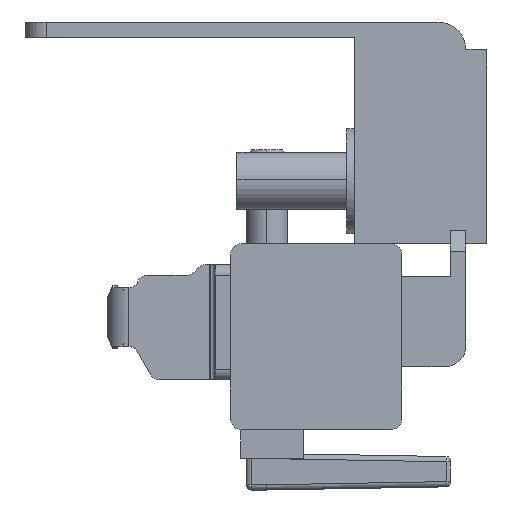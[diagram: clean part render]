
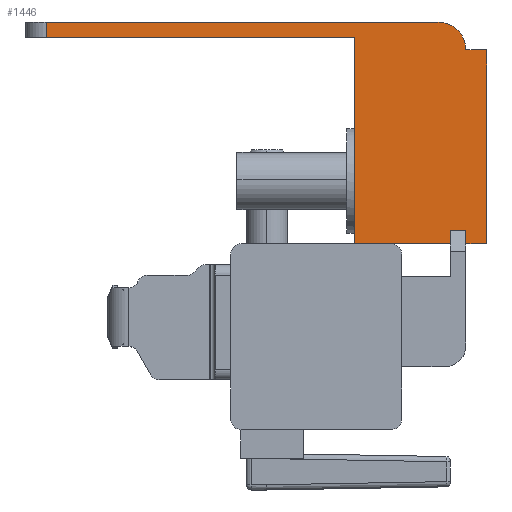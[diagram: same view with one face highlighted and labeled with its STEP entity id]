
A CAD part, left-side view. The second image highlights one B-rep face of the part: STEP entity #1446.
In plain terms, the highlighted planar face has unit normal (-1, 0, 0).
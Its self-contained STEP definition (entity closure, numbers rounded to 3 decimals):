
#17 = CARTESIAN_POINT ( 'NONE',  ( -291., -26.863, -0.361 ) ) ;
#47 = CARTESIAN_POINT ( 'NONE',  ( -291., -17.713, -1.651 ) ) ;
#92 = EDGE_CURVE ( 'NONE', #3028, #2423, #4048, .T. ) ;
#107 = AXIS2_PLACEMENT_3D ( 'NONE', #1886, #2613, #1338 ) ;
#168 = CARTESIAN_POINT ( 'NONE',  ( -291., -28.333, 16.879 ) ) ;
#183 = LINE ( 'NONE', #307, #2459 ) ;
#220 = CARTESIAN_POINT ( 'NONE',  ( -291., -28.333, -0.361 ) ) ;
#246 = EDGE_CURVE ( 'NONE', #2527, #616, #2412, .T. ) ;
#307 = CARTESIAN_POINT ( 'NONE',  ( -291., 11.767, 17.779 ) ) ;
#346 = DIRECTION ( 'NONE',  ( 0., -1., 0. ) ) ;
#353 = CARTESIAN_POINT ( 'NONE',  ( -291., 11.767, 19.549 ) ) ;
#366 = DIRECTION ( 'NONE',  ( 0., 1., 0. ) ) ;
#515 = ORIENTED_EDGE ( 'NONE', *, *, #4118, .F. ) ;
#570 = EDGE_CURVE ( 'NONE', #4388, #3094, #4303, .T. ) ;
#581 = CARTESIAN_POINT ( 'NONE',  ( -291., 14.667, 19.549 ) ) ;
#616 = VERTEX_POINT ( 'NONE', #1875 ) ;
#625 = LINE ( 'NONE', #5415, #2635 ) ;
#665 = VECTOR ( 'NONE', #366, 1000. ) ;
#784 = VECTOR ( 'NONE', #2451, 1000. ) ;
#800 = VERTEX_POINT ( 'NONE', #1546 ) ;
#831 = LINE ( 'NONE', #3818, #1987 ) ;
#840 = DIRECTION ( 'NONE',  ( 0., 0., 1. ) ) ;
#981 = EDGE_CURVE ( 'NONE', #4121, #800, #2250, .T. ) ;
#1034 = DIRECTION ( 'NONE',  ( 0., 1., 0. ) ) ;
#1090 = VERTEX_POINT ( 'NONE', #220 ) ;
#1182 = CARTESIAN_POINT ( 'NONE',  ( -291., -26.863, -1.651 ) ) ;
#1216 = DIRECTION ( 'NONE',  ( 0., -1., 0. ) ) ;
#1311 = CARTESIAN_POINT ( 'NONE',  ( -291., -28.333, -1.651 ) ) ;
#1338 = DIRECTION ( 'NONE',  ( 0., 1., 0. ) ) ;
#1356 = EDGE_CURVE ( 'NONE', #1090, #3258, #2903, .T. ) ;
#1365 = ORIENTED_EDGE ( 'NONE', *, *, #1356, .F. ) ;
#1446 = ADVANCED_FACE ( 'NONE', ( #4580 ), #2182, .F. ) ;
#1453 = VERTEX_POINT ( 'NONE', #1811 ) ;
#1546 = CARTESIAN_POINT ( 'NONE',  ( -291., -25.663, 19.549 ) ) ;
#1620 = DIRECTION ( 'NONE',  ( 0., 0., -1. ) ) ;
#1684 = ORIENTED_EDGE ( 'NONE', *, *, #5058, .T. ) ;
#1811 = CARTESIAN_POINT ( 'NONE',  ( -291., -21.203, -1.651 ) ) ;
#1875 = CARTESIAN_POINT ( 'NONE',  ( -291., -17.713, 18.079 ) ) ;
#1886 = CARTESIAN_POINT ( 'NONE',  ( -291., -29.063, 15.779 ) ) ;
#1923 = EDGE_CURVE ( 'NONE', #3094, #800, #4709, .T. ) ;
#1987 = VECTOR ( 'NONE', #840, 1000. ) ;
#2027 = ORIENTED_EDGE ( 'NONE', *, *, #5210, .F. ) ;
#2099 = EDGE_LOOP ( 'NONE', ( #1365, #3836, #2591, #3729, #2455, #4615, #4895, #1684, #515, #5417, #4497, #2499, #2027 ) ) ;
#2114 = VECTOR ( 'NONE', #346, 1000. ) ;
#2163 = CARTESIAN_POINT ( 'NONE',  ( -291., 11.767, 18.079 ) ) ;
#2182 = PLANE ( 'NONE',  #107 ) ;
#2250 = LINE ( 'NONE', #581, #2114 ) ;
#2326 = CARTESIAN_POINT ( 'NONE',  ( -291., -30.333, 16.879 ) ) ;
#2412 = LINE ( 'NONE', #3077, #4491 ) ;
#2423 = VERTEX_POINT ( 'NONE', #1311 ) ;
#2451 = DIRECTION ( 'NONE',  ( 0., 1., 0. ) ) ;
#2455 = ORIENTED_EDGE ( 'NONE', *, *, #570, .T. ) ;
#2459 = VECTOR ( 'NONE', #3301, 1000. ) ;
#2499 = ORIENTED_EDGE ( 'NONE', *, *, #3405, .T. ) ;
#2527 = VERTEX_POINT ( 'NONE', #3114 ) ;
#2591 = ORIENTED_EDGE ( 'NONE', *, *, #92, .F. ) ;
#2613 = DIRECTION ( 'NONE',  ( 1., 0., 0. ) ) ;
#2635 = VECTOR ( 'NONE', #3340, 1000. ) ;
#2640 = DIRECTION ( 'NONE',  ( 0., 0., -1. ) ) ;
#2674 = VERTEX_POINT ( 'NONE', #3199 ) ;
#2903 = LINE ( 'NONE', #17, #3889 ) ;
#2964 = LINE ( 'NONE', #3907, #3683 ) ;
#3028 = VERTEX_POINT ( 'NONE', #4760 ) ;
#3064 = DIRECTION ( 'NONE',  ( 0., -1., 0. ) ) ;
#3077 = CARTESIAN_POINT ( 'NONE',  ( -291., -17.713, -1.651 ) ) ;
#3094 = VERTEX_POINT ( 'NONE', #168 ) ;
#3114 = CARTESIAN_POINT ( 'NONE',  ( -291., -17.713, -1.651 ) ) ;
#3199 = CARTESIAN_POINT ( 'NONE',  ( -291., -26.863, -1.651 ) ) ;
#3258 = VERTEX_POINT ( 'NONE', #4920 ) ;
#3301 = DIRECTION ( 'NONE',  ( 0., 0., -1. ) ) ;
#3329 = CARTESIAN_POINT ( 'NONE',  ( -291., -17.713, -1.651 ) ) ;
#3340 = DIRECTION ( 'NONE',  ( 0., 1., 0. ) ) ;
#3405 = EDGE_CURVE ( 'NONE', #1453, #2674, #5447, .T. ) ;
#3648 = LINE ( 'NONE', #3329, #4478 ) ;
#3683 = VECTOR ( 'NONE', #2640, 1000. ) ;
#3729 = ORIENTED_EDGE ( 'NONE', *, *, #3901, .F. ) ;
#3797 = VERTEX_POINT ( 'NONE', #2163 ) ;
#3818 = CARTESIAN_POINT ( 'NONE',  ( -291., -28.333, -1.651 ) ) ;
#3836 = ORIENTED_EDGE ( 'NONE', *, *, #4288, .F. ) ;
#3889 = VECTOR ( 'NONE', #1034, 1000. ) ;
#3901 = EDGE_CURVE ( 'NONE', #4388, #3028, #2964, .T. ) ;
#3907 = CARTESIAN_POINT ( 'NONE',  ( -291., -30.333, 16.879 ) ) ;
#3930 = CARTESIAN_POINT ( 'NONE',  ( -291., -30.333, 16.879 ) ) ;
#4048 = LINE ( 'NONE', #5507, #665 ) ;
#4118 = EDGE_CURVE ( 'NONE', #616, #3797, #625, .T. ) ;
#4121 = VERTEX_POINT ( 'NONE', #353 ) ;
#4175 = DIRECTION ( 'NONE',  ( 0., 0., -1. ) ) ;
#4247 = DIRECTION ( 'NONE',  ( -1., 0., 0. ) ) ;
#4277 = AXIS2_PLACEMENT_3D ( 'NONE', #4316, #4247, #4175 ) ;
#4288 = EDGE_CURVE ( 'NONE', #2423, #1090, #831, .T. ) ;
#4303 = LINE ( 'NONE', #2326, #784 ) ;
#4316 = CARTESIAN_POINT ( 'NONE',  ( -291., -25.663, 16.879 ) ) ;
#4388 = VERTEX_POINT ( 'NONE', #3930 ) ;
#4461 = VECTOR ( 'NONE', #3064, 1000. ) ;
#4478 = VECTOR ( 'NONE', #1216, 1000. ) ;
#4491 = VECTOR ( 'NONE', #4690, 1000. ) ;
#4497 = ORIENTED_EDGE ( 'NONE', *, *, #5282, .T. ) ;
#4580 = FACE_OUTER_BOUND ( 'NONE', #2099, .T. ) ;
#4615 = ORIENTED_EDGE ( 'NONE', *, *, #1923, .T. ) ;
#4690 = DIRECTION ( 'NONE',  ( 0., 0., 1. ) ) ;
#4709 = CIRCLE ( 'NONE', #4277, 2.67 ) ;
#4746 = VECTOR ( 'NONE', #1620, 1000. ) ;
#4760 = CARTESIAN_POINT ( 'NONE',  ( -291., -30.333, -1.651 ) ) ;
#4865 = LINE ( 'NONE', #1182, #4746 ) ;
#4895 = ORIENTED_EDGE ( 'NONE', *, *, #981, .F. ) ;
#4920 = CARTESIAN_POINT ( 'NONE',  ( -291., -26.863, -0.361 ) ) ;
#5058 = EDGE_CURVE ( 'NONE', #4121, #3797, #183, .T. ) ;
#5210 = EDGE_CURVE ( 'NONE', #3258, #2674, #4865, .T. ) ;
#5282 = EDGE_CURVE ( 'NONE', #2527, #1453, #3648, .T. ) ;
#5415 = CARTESIAN_POINT ( 'NONE',  ( -291., -29.063, 18.079 ) ) ;
#5417 = ORIENTED_EDGE ( 'NONE', *, *, #246, .F. ) ;
#5447 = LINE ( 'NONE', #47, #4461 ) ;
#5507 = CARTESIAN_POINT ( 'NONE',  ( -291., -30.333, -1.651 ) ) ;
